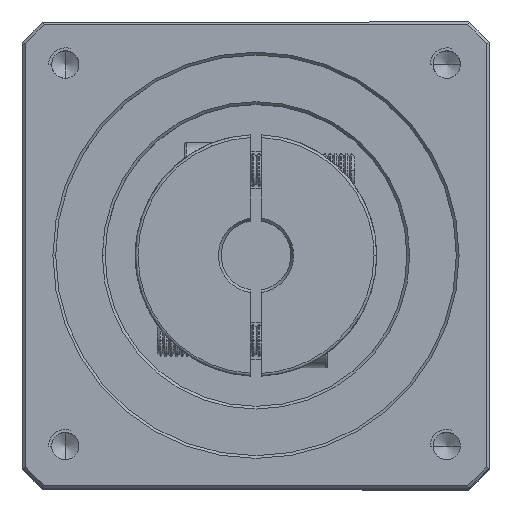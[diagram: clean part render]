
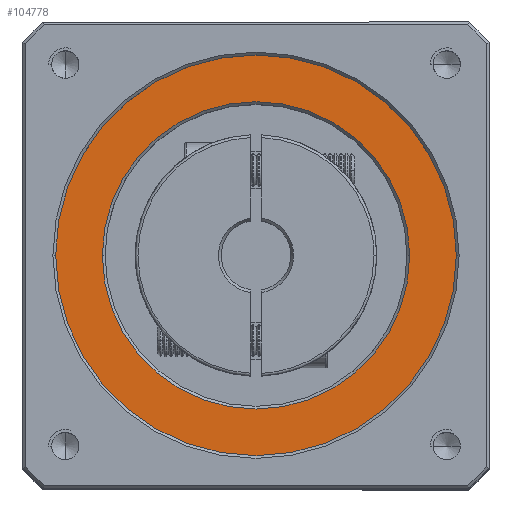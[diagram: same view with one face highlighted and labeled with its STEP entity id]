
A CAD part, top view. The second image highlights one B-rep face of the part: STEP entity #104778.
In plain terms, the highlighted planar face has unit normal (0, 0, 1).
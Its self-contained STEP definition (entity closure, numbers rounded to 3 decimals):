
#1655 = EDGE_CURVE ( 'NONE', #112531, #47014, #51315, .T. ) ;
#3034 = AXIS2_PLACEMENT_3D ( 'NONE', #80369, #52151, #42951 ) ;
#5857 = CARTESIAN_POINT ( 'NONE',  ( -60.458, -3.838, 176.5 ) ) ;
#5939 = AXIS2_PLACEMENT_3D ( 'NONE', #105927, #67607, #20064 ) ;
#8379 = DIRECTION ( 'NONE',  ( 1., 0., 0. ) ) ;
#10112 = EDGE_LOOP ( 'NONE', ( #45214, #77392 ) ) ;
#16207 = EDGE_CURVE ( 'NONE', #88042, #68874, #53068, .T. ) ;
#18714 = DIRECTION ( 'NONE',  ( 1., 0., 0. ) ) ;
#20064 = DIRECTION ( 'NONE',  ( 1., 0., 0. ) ) ;
#26250 = FACE_OUTER_BOUND ( 'NONE', #74853, .T. ) ;
#28250 = AXIS2_PLACEMENT_3D ( 'NONE', #105011, #96189, #18714 ) ;
#32274 = AXIS2_PLACEMENT_3D ( 'NONE', #35952, #75441, #85046 ) ;
#35952 = CARTESIAN_POINT ( 'NONE',  ( -23.958, -3.838, 176.5 ) ) ;
#37921 = AXIS2_PLACEMENT_3D ( 'NONE', #103435, #113377, #8379 ) ;
#41881 = CARTESIAN_POINT ( 'NONE',  ( 4.042, -3.838, 176.5 ) ) ;
#42146 = ORIENTED_EDGE ( 'NONE', *, *, #111245, .T. ) ;
#42951 = DIRECTION ( 'NONE',  ( 1., 0., 0. ) ) ;
#45214 = ORIENTED_EDGE ( 'NONE', *, *, #1655, .T. ) ;
#46630 = CARTESIAN_POINT ( 'NONE',  ( -51.958, -3.838, 176.5 ) ) ;
#47014 = VERTEX_POINT ( 'NONE', #46630 ) ;
#51315 = CIRCLE ( 'NONE', #3034, 28. ) ;
#52151 = DIRECTION ( 'NONE',  ( 0., 0., -1. ) ) ;
#52738 = CIRCLE ( 'NONE', #5939, 28. ) ;
#53068 = CIRCLE ( 'NONE', #37921, 36.5 ) ;
#64797 = CARTESIAN_POINT ( 'NONE',  ( 12.542, -3.838, 176.5 ) ) ;
#67607 = DIRECTION ( 'NONE',  ( 0., 0., -1. ) ) ;
#68874 = VERTEX_POINT ( 'NONE', #64797 ) ;
#74853 = EDGE_LOOP ( 'NONE', ( #42146, #105332 ) ) ;
#75441 = DIRECTION ( 'NONE',  ( 0., 0., 1. ) ) ;
#77392 = ORIENTED_EDGE ( 'NONE', *, *, #105748, .T. ) ;
#80369 = CARTESIAN_POINT ( 'NONE',  ( -23.958, -3.838, 176.5 ) ) ;
#85046 = DIRECTION ( 'NONE',  ( 1., 0., 0. ) ) ;
#88042 = VERTEX_POINT ( 'NONE', #5857 ) ;
#96189 = DIRECTION ( 'NONE',  ( 0., 0., 1. ) ) ;
#103435 = CARTESIAN_POINT ( 'NONE',  ( -23.958, -3.838, 176.5 ) ) ;
#104778 = ADVANCED_FACE ( 'NONE', ( #26250, #120134 ), #122903, .T. ) ;
#105011 = CARTESIAN_POINT ( 'NONE',  ( -23.958, -3.838, 176.5 ) ) ;
#105332 = ORIENTED_EDGE ( 'NONE', *, *, #16207, .T. ) ;
#105748 = EDGE_CURVE ( 'NONE', #47014, #112531, #52738, .T. ) ;
#105927 = CARTESIAN_POINT ( 'NONE',  ( -23.958, -3.838, 176.5 ) ) ;
#111245 = EDGE_CURVE ( 'NONE', #68874, #88042, #111861, .T. ) ;
#111861 = CIRCLE ( 'NONE', #32274, 36.5 ) ;
#112531 = VERTEX_POINT ( 'NONE', #41881 ) ;
#113377 = DIRECTION ( 'NONE',  ( 0., 0., 1. ) ) ;
#120134 = FACE_BOUND ( 'NONE', #10112, .T. ) ;
#122903 = PLANE ( 'NONE',  #28250 ) ;
